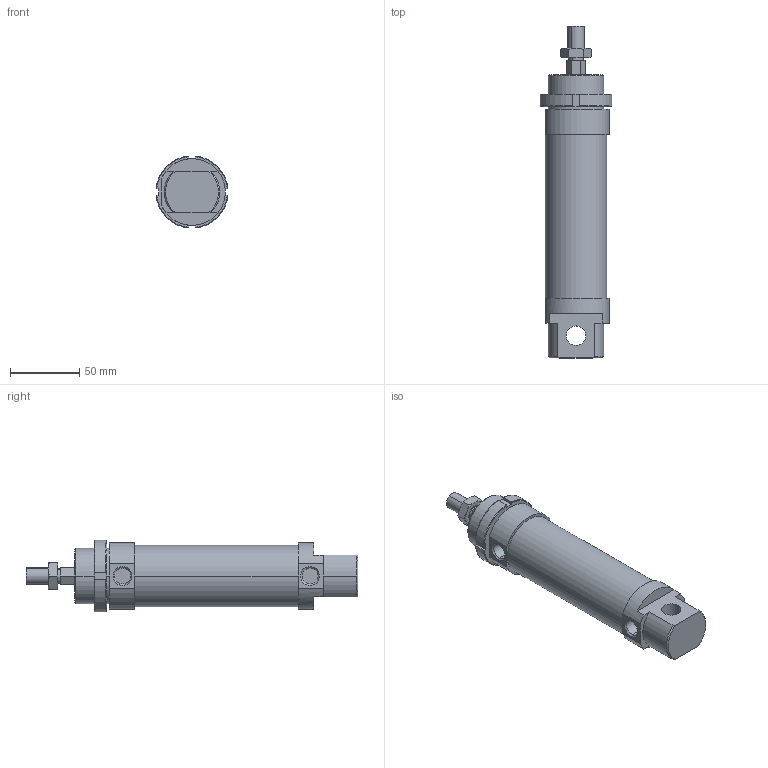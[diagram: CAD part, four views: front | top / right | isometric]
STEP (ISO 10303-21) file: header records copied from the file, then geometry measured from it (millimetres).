
FILE_DESCRIPTION((''),'2;1');
FILE_NAME('I:\DOC-EDP\Lib-3d\1200\CILINDRI\1260E\1260_40_0075_E.stp','2003-04-05T07:54:52',('maffial1'),(''),'Autodesk Inventor (R) 6.0','Autodesk Inventor (R) 6.0','');
FILE_SCHEMA(('AUTOMOTIVE_DESIGN { 1 0 10303 214 1 1 1 1 }'));
Length unit declared in the file: millimetre
Products named in the file (5): 1260_40_0075_E; S1260E_40_75; C1260E_40_75; 1200_40_05; 1200_40_06
Assembly tree (4 placements, depth 2):
  1260_40_0075_E
    S1260E_40_75
    C1260E_40_75
    1200_40_05
    1200_40_06
Bounding box: 51.76 x 239 x 51.76 mm (x, y, z)
Volume: 305074.6 mm3; surface area: 50588.4 mm2
Topology: 4 solids, 4 shells, 126 faces, 298 edges, 188 vertices
Faces by surface type: plane 52, cone 32, cylinder 22, bspline 20
Entity records: 3951 total; most frequent: CARTESIAN_POINT 1021, ORIENTED_EDGE 596, DIRECTION 590, EDGE_CURVE 298, AXIS2_PLACEMENT_3D 221, VERTEX_POINT 188, VECTOR 148, LINE 148
